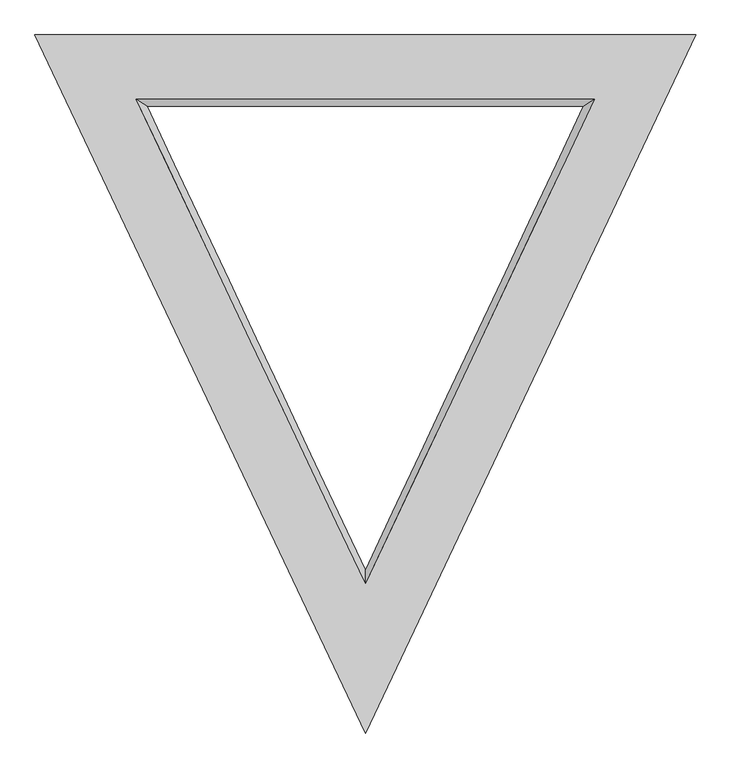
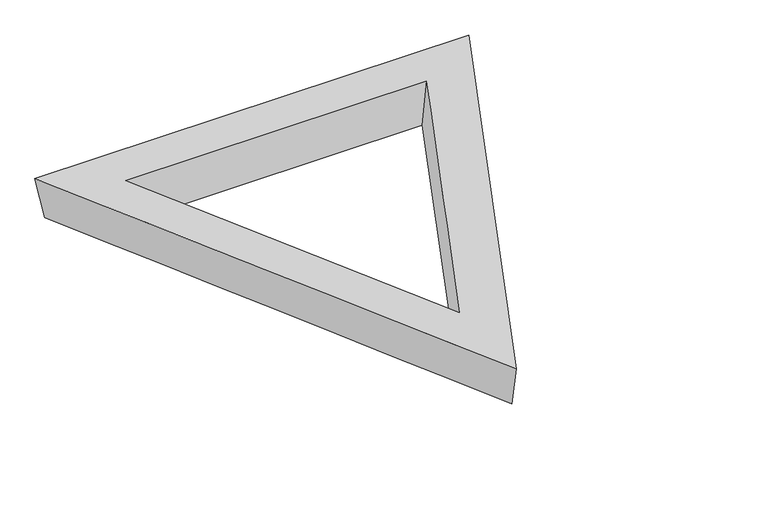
"""IFC4 building model written with IfcOpenShell, lengths in millimetres: plate geometry."""

from ifc_helpers import new_model, si_unit, frame, origin, place, context, project, spatial, source, transform, mapped, element, save
from ifc_brep_helpers import plane_surface, spline_surface, advanced_brep


def plate_7fea548a(model_context):
    return source(origin(), model_context, "Body", "AdvancedBrep", [
        advanced_brep(
        [(5405.1466992, 5592.8821835, 0.0), (5371.1283582, 5615.0364926, 199.0149123), (6096.0, 4084.5477873, 199.4716329), (6096.0, 4125.0079892, 0.0), (6820.8716418, 5615.0364926, 199.0149123), (6786.8533008, 5592.8821835, 0.0), (6096.0, 3647.8356331, 0.0), (7107.0697675, 5796.0821835, 0.0), (7141.9499004, 5818.2364836, 198.9542744), (6096.0, 3609.8254815, 199.6132971), (5084.9302325, 5796.0821835, 0.0), (5050.0500996, 5818.2364836, 198.9542744)],
        [
            (0, 1),
            (1, 2),
            (2, 3),
            (3, 0),
            (2, 4),
            (4, 5),
            (5, 3),
            (0, 5),
            (4, 1),
            (6, 7),
            (7, 8),
            (8, 9),
            (9, 6),
            (7, 10),
            (10, 11),
            (11, 8),
            (9, 11),
            (10, 6),
        ],
        [
            spline_surface(1, 1, [[(5405.1466992, 5592.8821835, 0.0), (6096.0, 4125.0079892, 0.0)], [(5371.1283582, 5615.0364926, 199.0149123), (6096.0, 4084.5477873, 199.4716329)]], [2, 2], [2, 2], [0.0, 1.0], [0.0, 1.0]),
            spline_surface(1, 1, [[(6096.0, 4125.0079892, 0.0), (6786.8533008, 5592.8821835, 0.0)], [(6096.0, 4084.5477873, 199.4716329), (6820.8716418, 5615.0364926, 199.0149123)]], [2, 2], [2, 2], [0.0, 1.0], [0.0, 1.0]),
            plane_surface(frame((6096.0, 5592.8821835, 0.0), z_axis=(0.0, -0.9938609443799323, 0.11063644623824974), x_axis=(-1.0, 0.0, -6.624328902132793e-12))),
            spline_surface(1, 1, [[(6096.0, 3647.8356331, 0.0), (6096.0, 3609.8254815, 199.6132971)], [(7107.0697675, 5796.0821835, 0.0), (7141.9499004, 5818.2364836, 198.9542744)]], [2, 2], [2, 2], [0.0, 1.0], [0.0, 1.0]),
            plane_surface(frame((6096.0, 5796.0821835, 0.0), z_axis=(0.0, 0.9938572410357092, -0.1106697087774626), x_axis=(-1.0, 0.0, -6.624321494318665e-12))),
            spline_surface(1, 1, [[(5084.9302325, 5796.0821835, 0.0), (5050.0500996, 5818.2364836, 198.9542744)], [(6096.0, 3647.8356331, 0.0), (6096.0, 3609.8254815, 199.6132971)]], [2, 2], [2, 2], [0.0, 1.0], [0.0, 1.0]),
            plane_surface(frame((6096.0, 5082.0994829, 199.1739487), z_axis=(-6.624321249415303e-12, 0.00029841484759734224, 0.9999999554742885), x_axis=(0.4280396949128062, -0.9037598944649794, 0.0002696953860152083))),
            plane_surface(frame((6096.0, 5080.0, 0.0), z_axis=(6.624338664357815e-12, 0.0, -1.0000000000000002), x_axis=(-0.42584193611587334, 0.9047975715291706, -2.821320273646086e-12))),
        ],
        [
            (0, [[1, 2, 3, 4]]),
            (1, [[-3, 5, 6, 7]]),
            (2, [[-1, 8, -6, 9]]),
            (3, [[10, 11, 12, 13]]),
            (4, [[-11, 14, 15, 16]]),
            (5, [[-13, 17, -15, 18]]),
            (6, [[-12, -16, -17], [-2, -9, -5]]),
            (7, [[-10, -18, -14], [-4, -7, -8]]),
        ],
    ),
    ])


if __name__ == "__main__":
    model = new_model("IFC4")
    model_context = context("Model", 3, world=origin())
    ifc_project = project(units=[si_unit("LENGTHUNIT", "METRE", prefix="MILLI")], contexts=[model_context])
    site = spatial("IfcSite", under=ifc_project)
    building = spatial("IfcBuilding", under=site)
    placement = place(None, origin())
    plate_shape = plate_7fea548a(model_context)
    element("IfcPlate", 1, ObjectType="tn_cpanel_patbase_triangle_flat_seamless_frame_02_cylinder : tn_cpanel_pattern_mullion_t8\"xh8\"", at=placement, inside=building, context=model_context, shape_type="MappedRepresentation", body=[
        mapped(plate_shape, transform((0.0, 0.0, 0.0), x_axis=(1.0, 0.0, 0.0), y_axis=(0.0, 1.0, 0.0), z_axis=(0.0, 0.0, 1.0))),
    ])
    save(model, "model.ifc")
